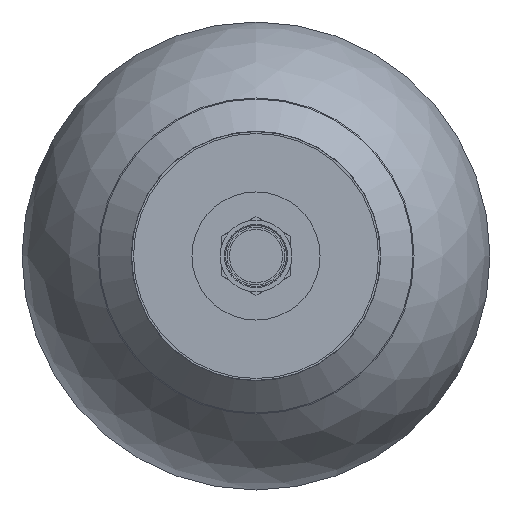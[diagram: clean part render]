
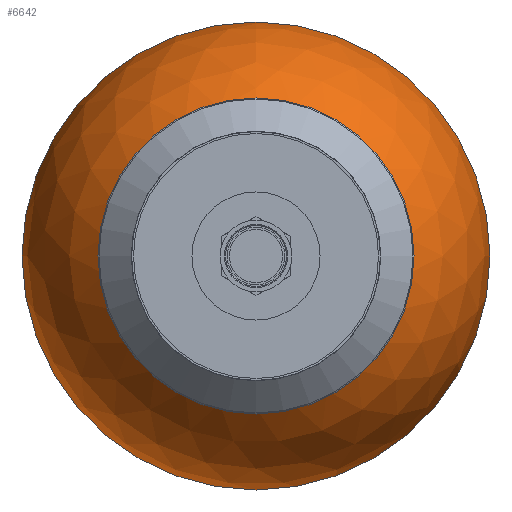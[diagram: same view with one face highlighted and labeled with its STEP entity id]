
A CAD part, front view. The second image highlights one B-rep face of the part: STEP entity #6642.
In plain terms, the highlighted spherical face has radius 109.55 mm.
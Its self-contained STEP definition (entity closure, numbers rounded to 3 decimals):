
#6484=CARTESIAN_POINT('',(-140.659,-155.6,0.));
#6485=VERTEX_POINT('',#6484);
#6486=CARTESIAN_POINT('',(-140.659,-46.05,0.0));
#6487=DIRECTION('',(1.0,0.0,0.0));
#6488=DIRECTION('',(0.0,1.0,0.0));
#6489=AXIS2_PLACEMENT_3D('',#6486,#6487,#6488);
#6490=CIRCLE('',#6489,109.55);
#6491=EDGE_CURVE('',#6485,#6485,#6490,.T.);
#6616=CARTESIAN_POINT('',(-246.021,-16.05,0.0));
#6617=VERTEX_POINT('',#6616);
#6618=CARTESIAN_POINT('',(-246.021,-46.05,0.0));
#6619=DIRECTION('',(1.0,0.0,0.0));
#6620=DIRECTION('',(0.0,1.0,0.0));
#6621=AXIS2_PLACEMENT_3D('',#6618,#6619,#6620);
#6622=CIRCLE('',#6621,30.0);
#6623=EDGE_CURVE('',#6617,#6617,#6622,.T.);
#6631=CARTESIAN_POINT('',(-140.659,-46.05,0.0));
#6632=DIRECTION('',(1.0,0.0,0.0));
#6633=DIRECTION('',(0.0,-1.0,0.0));
#6634=AXIS2_PLACEMENT_3D('',#6631,#6632,#6633);
#6635=SPHERICAL_SURFACE('',#6634,109.55);
#6636=ORIENTED_EDGE('',*,*,#6491,.F.);
#6637=EDGE_LOOP('',(#6636));
#6638=FACE_OUTER_BOUND('',#6637,.T.);
#6639=ORIENTED_EDGE('',*,*,#6623,.T.);
#6640=EDGE_LOOP('',(#6639));
#6641=FACE_BOUND('',#6640,.T.);
#6642=ADVANCED_FACE('',(#6638,#6641),#6635,.T.);
